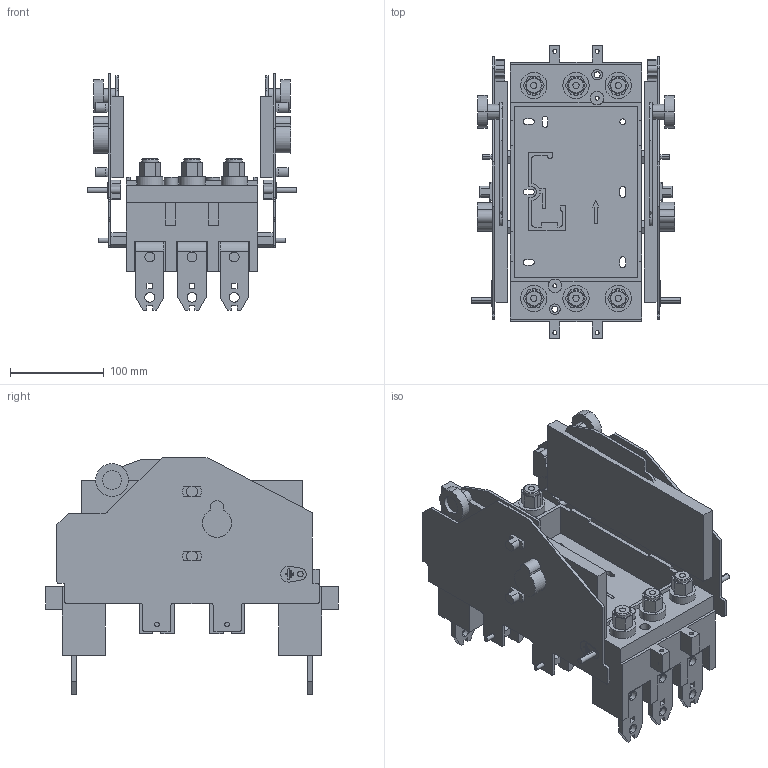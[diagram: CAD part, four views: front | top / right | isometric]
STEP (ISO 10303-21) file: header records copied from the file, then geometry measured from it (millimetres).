
FILE_DESCRIPTION (( 'STEP AP214' ), '1' );
FILE_NAME ('Êîìïëåêò äëÿ âûäâèæíîãî èñïîëíåíèÿ OptiMat D400, D630 ãîðèçîíòàëüíûå âûâîäû âàðèàíò 2.STEP', '2023-04-04T03:41:32', ( '' ), ( '' ), 'SwSTEP 2.0', 'SolidWorks 2018', '' );
FILE_SCHEMA (( 'AUTOMOTIVE_DESIGN' ));
Length unit declared in the file: millimetre
Products named in the file (3): Êîìïëåêò äëÿ âûäâèæíîãî èñïîëíåíèÿ OptiMat D400, D630 ãîðèçîíòàëüíûå âûâîäû âàðèàíò 2; ﾂ鏆鮏; Âòû÷íîå âûäâèæíîå 630_¢ë¤¢¨¦­®¥
Assembly tree (7 placements, depth 2):
  Êîìïëåêò äëÿ âûäâèæíîãî èñïîëíåíèÿ OptiMat D400, D630 ãîðèçîíòàëüíûå âûâîäû âàðèàíò 2
    Âòû÷íîå âûäâèæíîå 630_¢ë¤¢¨¦­®¥
    ﾂ鏆鮏  x6
Bounding box: 222.8 x 312 x 252.6 mm (x, y, z)
Volume: 2226451.1 mm3; surface area: 506032.2 mm2
Topology: 7 solids, 7 shells, 959 faces, 2607 edges, 1722 vertices
Faces by surface type: plane 631, cylinder 316, cone 12
Entity records: 26141 total; most frequent: CARTESIAN_POINT 4538, DIRECTION 4479, ORIENTED_EDGE 4454, EDGE_CURVE 2227, LINE 1653, VECTOR 1653, VERTEX_POINT 1472, AXIS2_PLACEMENT_3D 1413
